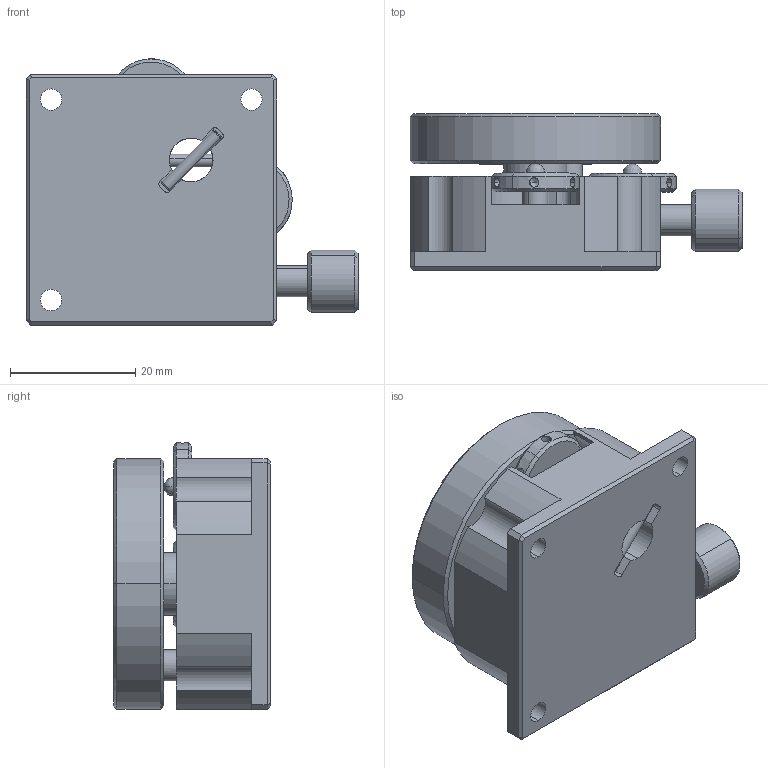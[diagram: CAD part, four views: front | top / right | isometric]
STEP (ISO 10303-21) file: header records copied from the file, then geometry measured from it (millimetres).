
FILE_DESCRIPTION (( 'STEP AP214' ), '1' );
FILE_NAME ('PT-SR40.STEP', '2023-05-07T05:54:20', ( '' ), ( '' ), 'SwSTEP 2.0', 'SolidWorks 2017', '' );
FILE_SCHEMA (( 'AUTOMOTIVE_DESIGN' ));
Length unit declared in the file: millimetre
Products named in the file (2): PT-SR40
Bounding box: 53 x 25 x 42.5 mm (x, y, z)
Volume: 28856.3 mm3; surface area: 16395.1 mm2
Topology: 19 solids, 19 shells, 665 faces, 1684 edges, 1033 vertices
Faces by surface type: plane 256, cylinder 198, bspline 110, cone 101
Entity records: 31271 total; most frequent: CARTESIAN_POINT 8574, ORIENTED_EDGE 3206, DIRECTION 2950, EDGE_CURVE 1603, AXIS2_PLACEMENT_3D 1050, VERTEX_POINT 1031, VECTOR 850, LINE 850
